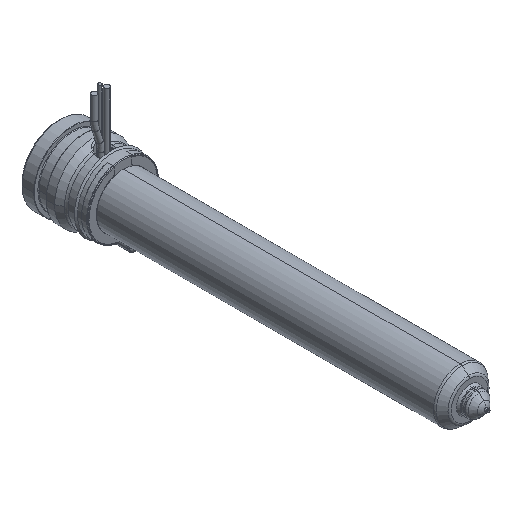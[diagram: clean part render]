
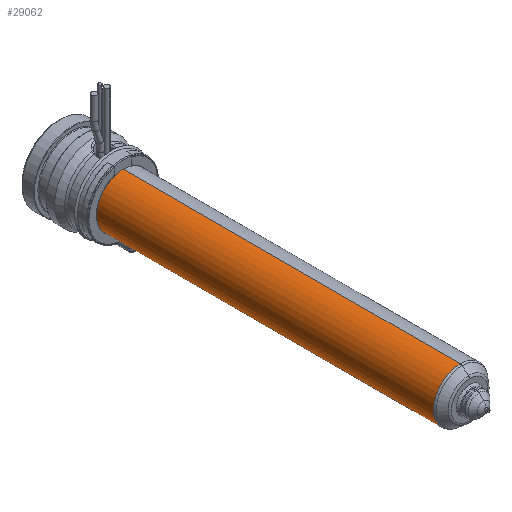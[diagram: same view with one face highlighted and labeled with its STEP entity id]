
A CAD part, isometric view. The second image highlights one B-rep face of the part: STEP entity #29062.
In plain terms, the highlighted cylindrical face has radius 9 mm (diameter 18 mm), a partial arc.
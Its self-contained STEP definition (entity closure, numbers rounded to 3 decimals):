
#28451=CARTESIAN_POINT('',(0.,-135.836,0.));
#28452=DIRECTION('',(0.,-1.,0.));
#28453=DIRECTION('',(0.,0.,1.));
#28454=AXIS2_PLACEMENT_3D('',#28451,#28452,#28453);
#28459=CARTESIAN_POINT('',(0.,-22.,0.));
#28460=DIRECTION('',(0.,-1.,0.));
#28461=DIRECTION('',(0.,0.,1.));
#28462=AXIS2_PLACEMENT_3D('',#28459,#28460,#28461);
#28467=DIRECTION('',(0.,-1.,0.));
#28468=VECTOR('',#28467,113.836);
#28469=CARTESIAN_POINT('',(0.,-22.,9.));
#28470=LINE('',#28469,#28468);
#28482=DIRECTION('',(0.,-1.,0.));
#28483=VECTOR('',#28482,113.836);
#28484=CARTESIAN_POINT('',(0.,-22.,-9.));
#28485=LINE('',#28484,#28483);
#28679=CARTESIAN_POINT('',(0.,-22.,9.));
#28680=CARTESIAN_POINT('',(0.,-135.836,9.));
#28681=VERTEX_POINT('',#28679);
#28682=VERTEX_POINT('',#28680);
#28705=CARTESIAN_POINT('',(0.,-22.,-9.));
#28706=CARTESIAN_POINT('',(0.,-135.836,-9.));
#28707=VERTEX_POINT('',#28705);
#28708=VERTEX_POINT('',#28706);
#29048=CARTESIAN_POINT('',(0.,-11.625,0.));
#29049=DIRECTION('',(0.,-1.,0.));
#29050=DIRECTION('',(0.,0.,1.));
#29051=AXIS2_PLACEMENT_3D('',#29048,#29049,#29050);
#29052=CYLINDRICAL_SURFACE('',#29051,9.);
#29054=ORIENTED_EDGE('',*,*,#29053,.T.);
#29055=ORIENTED_EDGE('',*,*,#29043,.T.);
#29057=ORIENTED_EDGE('',*,*,#29056,.F.);
#29059=ORIENTED_EDGE('',*,*,#29058,.F.);
#29060=EDGE_LOOP('',(#29054,#29055,#29057,#29059));
#29061=FACE_OUTER_BOUND('',#29060,.F.);
#29062=ADVANCED_FACE('',(#29061),#29052,.T.);
#28455=CIRCLE('',#28454,9.);
#28463=CIRCLE('',#28462,9.);
#29043=EDGE_CURVE('',#28682,#28708,#28455,.T.);
#29053=EDGE_CURVE('',#28681,#28682,#28470,.T.);
#29056=EDGE_CURVE('',#28707,#28708,#28485,.T.);
#29058=EDGE_CURVE('',#28681,#28707,#28463,.T.);
